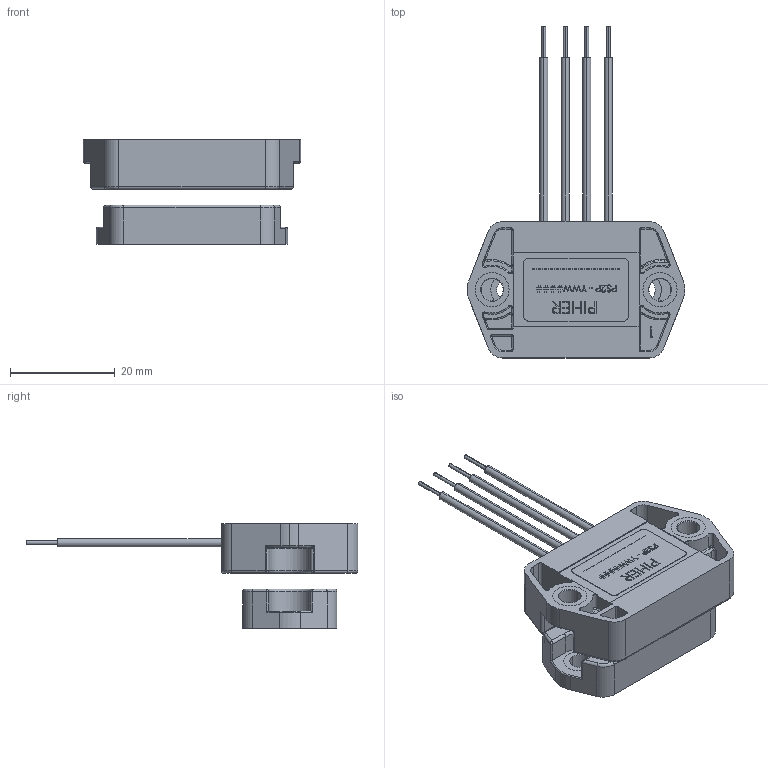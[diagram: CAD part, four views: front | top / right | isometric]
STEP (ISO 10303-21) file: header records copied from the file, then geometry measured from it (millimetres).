
FILE_DESCRIPTION (( 'STEP AP203' ), '1' );
FILE_NAME ('11441 PS2P-CON.STEP', '2020-12-10T13:12:24', ( '' ), ( '' ), 'SwSTEP 2.0', 'SolidWorks 2018', '' );
FILE_SCHEMA (( 'CONFIG_CONTROL_DESIGN' ));
Length unit declared in the file: millimetre
Products named in the file (13): 3613 PS2P-ELEC carcasa; 3608 PS2P-CMAGNT-001 carcasa+iman+casquillos; 3614 PS2P-ELEC sobremoldeo carcasa+casquillos; 3685-PEGATINA PS2P-ELEC_PS2P-ELEC; 3606 PS2P-CMAGNT-001 carcasa sobremoldeo iman_REDISE¥O; 3604 PS-2P-000 casquillo; 3599 PS2P-ELEC cable AWG 22; 3617 PS2P-ELEC casquillo; 11437 PS2P-CMAGNT-001 modulo iman; 11439 PS2P-ELEC modulo electronica; 3607 PS2P-CMAGNT-001 pegatina; 11441 PS2P-CON; 3616 PS2P-ELEC Subjto PCB_chip simple centro
Assembly tree (17 placements, depth 4):
  11441 PS2P-CON
    11439 PS2P-ELEC modulo electronica
      3614 PS2P-ELEC sobremoldeo carcasa+casquillos
        3613 PS2P-ELEC carcasa
        3617 PS2P-ELEC casquillo  x2
      3685-PEGATINA PS2P-ELEC_PS2P-ELEC
      3616 PS2P-ELEC Subjto PCB_chip simple centro
        3599 PS2P-ELEC cable AWG 22  x4
    11437 PS2P-CMAGNT-001 modulo iman
      3608 PS2P-CMAGNT-001 carcasa+iman+casquillos
        3604 PS-2P-000 casquillo  x2
        3606 PS2P-CMAGNT-001 carcasa sobremoldeo iman_REDISE¥O
      3607 PS2P-CMAGNT-001 pegatina
Bounding box: 41.49 x 63.25 x 20 mm (x, y, z)
Volume: 10730.7 mm3; surface area: 9109 mm2
Topology: 12 solids, 12 shells, 5044 faces, 13897 edges, 9140 vertices
Faces by surface type: plane 3887, cylinder 831, bspline 188, torus 116, sphere 14, cone 8
Entity records: 121190 total; most frequent: CARTESIAN_POINT 45999, ORIENTED_EDGE 17964, DIRECTION 12405, EDGE_CURVE 8982, VERTEX_POINT 5899, VECTOR 4755, LINE 4755, AXIS2_PLACEMENT_3D 3825
